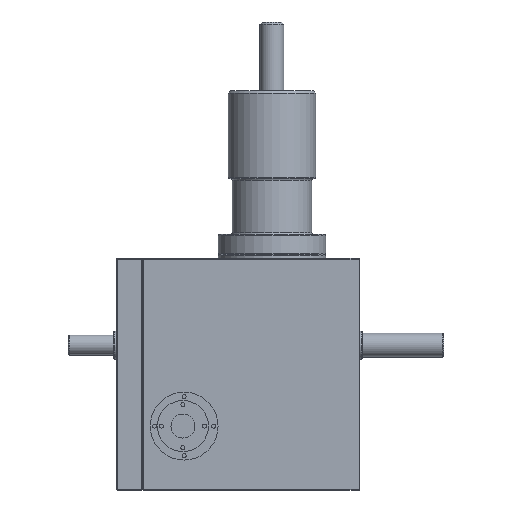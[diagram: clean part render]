
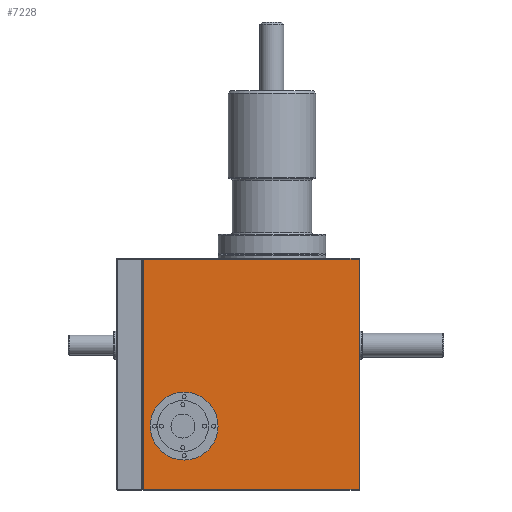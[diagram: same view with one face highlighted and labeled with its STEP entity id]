
A CAD part, front view. The second image highlights one B-rep face of the part: STEP entity #7228.
In plain terms, the highlighted planar face has unit normal (0, -1, 0).
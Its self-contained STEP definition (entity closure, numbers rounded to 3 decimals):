
#1246=CARTESIAN_POINT('',(-84.,-150.,-65.));
#1247=DIRECTION('',(0.,-1.,0.));
#1248=DIRECTION('',(1.,0.,0.));
#1249=AXIS2_PLACEMENT_3D('',#1246,#1247,#1248);
#1251=CARTESIAN_POINT('',(-84.,-150.,-65.));
#1252=DIRECTION('',(0.,-1.,0.));
#1253=DIRECTION('',(-1.,0.,0.));
#1254=AXIS2_PLACEMENT_3D('',#1251,#1252,#1253);
#1256=DIRECTION('',(1.,0.,0.));
#1257=VECTOR('',#1256,270.);
#1258=CARTESIAN_POINT('',(-135.,-150.,-144.));
#1259=LINE('',#1258,#1257);
#1260=DIRECTION('',(0.,0.,-1.));
#1261=VECTOR('',#1260,288.);
#1262=CARTESIAN_POINT('',(-135.,-150.,144.));
#1263=LINE('',#1262,#1261);
#1264=DIRECTION('',(-1.,0.,0.));
#1265=VECTOR('',#1264,270.);
#1266=CARTESIAN_POINT('',(135.,-150.,144.));
#1267=LINE('',#1266,#1265);
#1268=DIRECTION('',(0.,0.,-1.));
#1269=VECTOR('',#1268,288.);
#1270=CARTESIAN_POINT('',(135.,-150.,144.));
#1271=LINE('',#1270,#1269);
#4664=CARTESIAN_POINT('',(-41.5,-150.,-65.));
#4665=CARTESIAN_POINT('',(-126.5,-150.,-65.));
#4666=VERTEX_POINT('',#4664);
#4667=VERTEX_POINT('',#4665);
#5041=CARTESIAN_POINT('',(-135.,-150.,-144.));
#5043=VERTEX_POINT('',#5041);
#5048=CARTESIAN_POINT('',(135.,-150.,-144.));
#5049=VERTEX_POINT('',#5048);
#5054=CARTESIAN_POINT('',(-135.,-150.,144.));
#5055=VERTEX_POINT('',#5054);
#5056=CARTESIAN_POINT('',(135.,-150.,144.));
#5057=VERTEX_POINT('',#5056);
#7209=CARTESIAN_POINT('',(-136.,-150.,145.));
#7210=DIRECTION('',(0.,-1.,0.));
#7211=DIRECTION('',(1.,0.,0.));
#7212=AXIS2_PLACEMENT_3D('',#7209,#7210,#7211);
#7213=PLANE('',#7212);
#7215=ORIENTED_EDGE('',*,*,#7214,.F.);
#7216=ORIENTED_EDGE('',*,*,#7148,.F.);
#7217=ORIENTED_EDGE('',*,*,#7199,.F.);
#7219=ORIENTED_EDGE('',*,*,#7218,.T.);
#7220=EDGE_LOOP('',(#7215,#7216,#7217,#7219));
#7221=FACE_OUTER_BOUND('',#7220,.F.);
#7223=ORIENTED_EDGE('',*,*,#7222,.T.);
#7225=ORIENTED_EDGE('',*,*,#7224,.T.);
#7226=EDGE_LOOP('',(#7223,#7225));
#7227=FACE_BOUND('',#7226,.F.);
#1250=CIRCLE('',#1249,42.5);
#1255=CIRCLE('',#1254,42.5);
#7148=EDGE_CURVE('',#5055,#5043,#1263,.T.);
#7199=EDGE_CURVE('',#5057,#5055,#1267,.T.);
#7214=EDGE_CURVE('',#5043,#5049,#1259,.T.);
#7218=EDGE_CURVE('',#5057,#5049,#1271,.T.);
#7222=EDGE_CURVE('',#4666,#4667,#1250,.T.);
#7224=EDGE_CURVE('',#4667,#4666,#1255,.T.);
#7228=ADVANCED_FACE('',(#7221,#7227),#7213,.T.);
